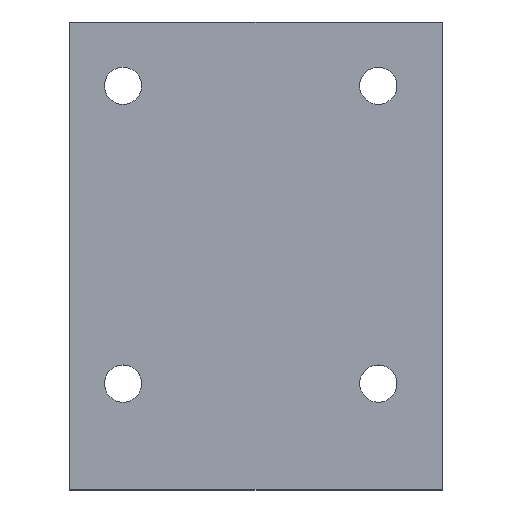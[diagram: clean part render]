
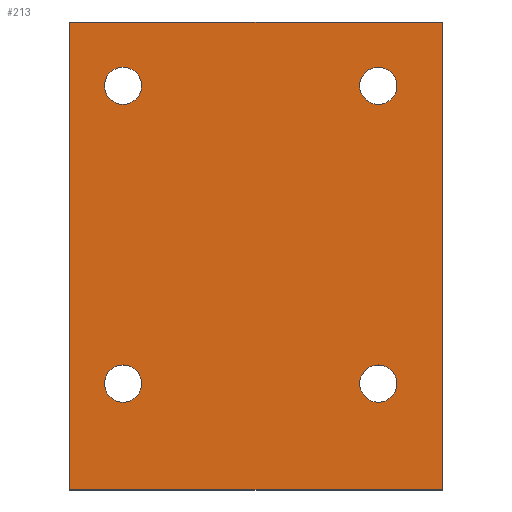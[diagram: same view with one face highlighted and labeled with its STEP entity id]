
A CAD part, top view. The second image highlights one B-rep face of the part: STEP entity #213.
In plain terms, the highlighted planar face has unit normal (0, 0, 1).
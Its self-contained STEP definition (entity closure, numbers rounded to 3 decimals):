
#24 = VERTEX_POINT('',#25);
#25 = CARTESIAN_POINT('',(0.,0.,3.));
#32 = PLANE('',#33);
#33 = AXIS2_PLACEMENT_3D('',#34,#35,#36);
#34 = CARTESIAN_POINT('',(0.,0.,0.));
#35 = DIRECTION('',(1.,0.,0.));
#36 = DIRECTION('',(0.,0.,1.));
#44 = PLANE('',#45);
#45 = AXIS2_PLACEMENT_3D('',#46,#47,#48);
#46 = CARTESIAN_POINT('',(0.,0.,0.));
#47 = DIRECTION('',(0.,1.,0.));
#48 = DIRECTION('',(0.,0.,1.));
#85 = VERTEX_POINT('',#86);
#86 = CARTESIAN_POINT('',(0.,44.,3.));
#100 = PLANE('',#101);
#101 = AXIS2_PLACEMENT_3D('',#102,#103,#104);
#102 = CARTESIAN_POINT('',(0.,44.,0.));
#103 = DIRECTION('',(0.,1.,0.));
#104 = DIRECTION('',(0.,0.,1.));
#112 = EDGE_CURVE('',#24,#85,#113,.T.);
#113 = SURFACE_CURVE('',#114,(#118,#125),.PCURVE_S1.);
#114 = LINE('',#115,#116);
#115 = CARTESIAN_POINT('',(0.,0.,3.));
#116 = VECTOR('',#117,1.);
#117 = DIRECTION('',(0.,1.,0.));
#118 = PCURVE('',#32,#119);
#119 = DEFINITIONAL_REPRESENTATION('',(#120),#124);
#120 = LINE('',#121,#122);
#121 = CARTESIAN_POINT('',(3.,0.));
#122 = VECTOR('',#123,1.);
#123 = DIRECTION('',(0.,-1.));
#124 = ( GEOMETRIC_REPRESENTATION_CONTEXT(2) 
PARAMETRIC_REPRESENTATION_CONTEXT() REPRESENTATION_CONTEXT('2D SPACE',''
  ) );
#125 = PCURVE('',#126,#131);
#126 = PLANE('',#127);
#127 = AXIS2_PLACEMENT_3D('',#128,#129,#130);
#128 = CARTESIAN_POINT('',(0.,0.,3.));
#129 = DIRECTION('',(0.,0.,1.));
#130 = DIRECTION('',(1.,0.,0.));
#131 = DEFINITIONAL_REPRESENTATION('',(#132),#136);
#132 = LINE('',#133,#134);
#133 = CARTESIAN_POINT('',(0.,0.));
#134 = VECTOR('',#135,1.);
#135 = DIRECTION('',(0.,1.));
#136 = ( GEOMETRIC_REPRESENTATION_CONTEXT(2) 
PARAMETRIC_REPRESENTATION_CONTEXT() REPRESENTATION_CONTEXT('2D SPACE',''
  ) );
#165 = EDGE_CURVE('',#24,#166,#168,.T.);
#166 = VERTEX_POINT('',#167);
#167 = CARTESIAN_POINT('',(35.,0.,3.));
#168 = SURFACE_CURVE('',#169,(#173,#180),.PCURVE_S1.);
#169 = LINE('',#170,#171);
#170 = CARTESIAN_POINT('',(0.,0.,3.));
#171 = VECTOR('',#172,1.);
#172 = DIRECTION('',(1.,0.,0.));
#173 = PCURVE('',#44,#174);
#174 = DEFINITIONAL_REPRESENTATION('',(#175),#179);
#175 = LINE('',#176,#177);
#176 = CARTESIAN_POINT('',(3.,0.));
#177 = VECTOR('',#178,1.);
#178 = DIRECTION('',(0.,1.));
#179 = ( GEOMETRIC_REPRESENTATION_CONTEXT(2) 
PARAMETRIC_REPRESENTATION_CONTEXT() REPRESENTATION_CONTEXT('2D SPACE',''
  ) );
#180 = PCURVE('',#126,#181);
#181 = DEFINITIONAL_REPRESENTATION('',(#182),#186);
#182 = LINE('',#183,#184);
#183 = CARTESIAN_POINT('',(0.,0.));
#184 = VECTOR('',#185,1.);
#185 = DIRECTION('',(1.,0.));
#186 = ( GEOMETRIC_REPRESENTATION_CONTEXT(2) 
PARAMETRIC_REPRESENTATION_CONTEXT() REPRESENTATION_CONTEXT('2D SPACE',''
  ) );
#202 = PLANE('',#203);
#203 = AXIS2_PLACEMENT_3D('',#204,#205,#206);
#204 = CARTESIAN_POINT('',(35.,0.,0.));
#205 = DIRECTION('',(1.,0.,0.));
#206 = DIRECTION('',(0.,0.,1.));
#213 = ADVANCED_FACE('',(#214,#262,#293,#324,#355),#126,.T.);
#214 = FACE_BOUND('',#215,.T.);
#215 = EDGE_LOOP('',(#216,#217,#218,#241));
#216 = ORIENTED_EDGE('',*,*,#112,.F.);
#217 = ORIENTED_EDGE('',*,*,#165,.T.);
#218 = ORIENTED_EDGE('',*,*,#219,.T.);
#219 = EDGE_CURVE('',#166,#220,#222,.T.);
#220 = VERTEX_POINT('',#221);
#221 = CARTESIAN_POINT('',(35.,44.,3.));
#222 = SURFACE_CURVE('',#223,(#227,#234),.PCURVE_S1.);
#223 = LINE('',#224,#225);
#224 = CARTESIAN_POINT('',(35.,0.,3.));
#225 = VECTOR('',#226,1.);
#226 = DIRECTION('',(0.,1.,0.));
#227 = PCURVE('',#126,#228);
#228 = DEFINITIONAL_REPRESENTATION('',(#229),#233);
#229 = LINE('',#230,#231);
#230 = CARTESIAN_POINT('',(35.,0.));
#231 = VECTOR('',#232,1.);
#232 = DIRECTION('',(0.,1.));
#233 = ( GEOMETRIC_REPRESENTATION_CONTEXT(2) 
PARAMETRIC_REPRESENTATION_CONTEXT() REPRESENTATION_CONTEXT('2D SPACE',''
  ) );
#234 = PCURVE('',#202,#235);
#235 = DEFINITIONAL_REPRESENTATION('',(#236),#240);
#236 = LINE('',#237,#238);
#237 = CARTESIAN_POINT('',(3.,0.));
#238 = VECTOR('',#239,1.);
#239 = DIRECTION('',(0.,-1.));
#240 = ( GEOMETRIC_REPRESENTATION_CONTEXT(2) 
PARAMETRIC_REPRESENTATION_CONTEXT() REPRESENTATION_CONTEXT('2D SPACE',''
  ) );
#241 = ORIENTED_EDGE('',*,*,#242,.F.);
#242 = EDGE_CURVE('',#85,#220,#243,.T.);
#243 = SURFACE_CURVE('',#244,(#248,#255),.PCURVE_S1.);
#244 = LINE('',#245,#246);
#245 = CARTESIAN_POINT('',(0.,44.,3.));
#246 = VECTOR('',#247,1.);
#247 = DIRECTION('',(1.,0.,0.));
#248 = PCURVE('',#126,#249);
#249 = DEFINITIONAL_REPRESENTATION('',(#250),#254);
#250 = LINE('',#251,#252);
#251 = CARTESIAN_POINT('',(0.,44.));
#252 = VECTOR('',#253,1.);
#253 = DIRECTION('',(1.,0.));
#254 = ( GEOMETRIC_REPRESENTATION_CONTEXT(2) 
PARAMETRIC_REPRESENTATION_CONTEXT() REPRESENTATION_CONTEXT('2D SPACE',''
  ) );
#255 = PCURVE('',#100,#256);
#256 = DEFINITIONAL_REPRESENTATION('',(#257),#261);
#257 = LINE('',#258,#259);
#258 = CARTESIAN_POINT('',(3.,0.));
#259 = VECTOR('',#260,1.);
#260 = DIRECTION('',(0.,1.));
#261 = ( GEOMETRIC_REPRESENTATION_CONTEXT(2) 
PARAMETRIC_REPRESENTATION_CONTEXT() REPRESENTATION_CONTEXT('2D SPACE',''
  ) );
#262 = FACE_BOUND('',#263,.T.);
#263 = EDGE_LOOP('',(#264));
#264 = ORIENTED_EDGE('',*,*,#265,.F.);
#265 = EDGE_CURVE('',#266,#266,#268,.T.);
#266 = VERTEX_POINT('',#267);
#267 = CARTESIAN_POINT('',(6.75,10.,3.));
#268 = SURFACE_CURVE('',#269,(#274,#281),.PCURVE_S1.);
#269 = CIRCLE('',#270,1.75);
#270 = AXIS2_PLACEMENT_3D('',#271,#272,#273);
#271 = CARTESIAN_POINT('',(5.,10.,3.));
#272 = DIRECTION('',(0.,0.,1.));
#273 = DIRECTION('',(1.,0.,-0.));
#274 = PCURVE('',#126,#275);
#275 = DEFINITIONAL_REPRESENTATION('',(#276),#280);
#276 = CIRCLE('',#277,1.75);
#277 = AXIS2_PLACEMENT_2D('',#278,#279);
#278 = CARTESIAN_POINT('',(5.,10.));
#279 = DIRECTION('',(1.,0.));
#280 = ( GEOMETRIC_REPRESENTATION_CONTEXT(2) 
PARAMETRIC_REPRESENTATION_CONTEXT() REPRESENTATION_CONTEXT('2D SPACE',''
  ) );
#281 = PCURVE('',#282,#287);
#282 = CYLINDRICAL_SURFACE('',#283,1.75);
#283 = AXIS2_PLACEMENT_3D('',#284,#285,#286);
#284 = CARTESIAN_POINT('',(5.,10.,-1.));
#285 = DIRECTION('',(0.,0.,1.));
#286 = DIRECTION('',(1.,0.,-0.));
#287 = DEFINITIONAL_REPRESENTATION('',(#288),#292);
#288 = LINE('',#289,#290);
#289 = CARTESIAN_POINT('',(0.,4.));
#290 = VECTOR('',#291,1.);
#291 = DIRECTION('',(1.,0.));
#292 = ( GEOMETRIC_REPRESENTATION_CONTEXT(2) 
PARAMETRIC_REPRESENTATION_CONTEXT() REPRESENTATION_CONTEXT('2D SPACE',''
  ) );
#293 = FACE_BOUND('',#294,.T.);
#294 = EDGE_LOOP('',(#295));
#295 = ORIENTED_EDGE('',*,*,#296,.F.);
#296 = EDGE_CURVE('',#297,#297,#299,.T.);
#297 = VERTEX_POINT('',#298);
#298 = CARTESIAN_POINT('',(30.75,10.,3.));
#299 = SURFACE_CURVE('',#300,(#305,#312),.PCURVE_S1.);
#300 = CIRCLE('',#301,1.75);
#301 = AXIS2_PLACEMENT_3D('',#302,#303,#304);
#302 = CARTESIAN_POINT('',(29.,10.,3.));
#303 = DIRECTION('',(0.,0.,1.));
#304 = DIRECTION('',(1.,0.,-0.));
#305 = PCURVE('',#126,#306);
#306 = DEFINITIONAL_REPRESENTATION('',(#307),#311);
#307 = CIRCLE('',#308,1.75);
#308 = AXIS2_PLACEMENT_2D('',#309,#310);
#309 = CARTESIAN_POINT('',(29.,10.));
#310 = DIRECTION('',(1.,0.));
#311 = ( GEOMETRIC_REPRESENTATION_CONTEXT(2) 
PARAMETRIC_REPRESENTATION_CONTEXT() REPRESENTATION_CONTEXT('2D SPACE',''
  ) );
#312 = PCURVE('',#313,#318);
#313 = CYLINDRICAL_SURFACE('',#314,1.75);
#314 = AXIS2_PLACEMENT_3D('',#315,#316,#317);
#315 = CARTESIAN_POINT('',(29.,10.,-1.));
#316 = DIRECTION('',(0.,0.,1.));
#317 = DIRECTION('',(1.,0.,-0.));
#318 = DEFINITIONAL_REPRESENTATION('',(#319),#323);
#319 = LINE('',#320,#321);
#320 = CARTESIAN_POINT('',(0.,4.));
#321 = VECTOR('',#322,1.);
#322 = DIRECTION('',(1.,0.));
#323 = ( GEOMETRIC_REPRESENTATION_CONTEXT(2) 
PARAMETRIC_REPRESENTATION_CONTEXT() REPRESENTATION_CONTEXT('2D SPACE',''
  ) );
#324 = FACE_BOUND('',#325,.T.);
#325 = EDGE_LOOP('',(#326));
#326 = ORIENTED_EDGE('',*,*,#327,.F.);
#327 = EDGE_CURVE('',#328,#328,#330,.T.);
#328 = VERTEX_POINT('',#329);
#329 = CARTESIAN_POINT('',(6.75,38.,3.));
#330 = SURFACE_CURVE('',#331,(#336,#343),.PCURVE_S1.);
#331 = CIRCLE('',#332,1.75);
#332 = AXIS2_PLACEMENT_3D('',#333,#334,#335);
#333 = CARTESIAN_POINT('',(5.,38.,3.));
#334 = DIRECTION('',(0.,0.,1.));
#335 = DIRECTION('',(1.,0.,-0.));
#336 = PCURVE('',#126,#337);
#337 = DEFINITIONAL_REPRESENTATION('',(#338),#342);
#338 = CIRCLE('',#339,1.75);
#339 = AXIS2_PLACEMENT_2D('',#340,#341);
#340 = CARTESIAN_POINT('',(5.,38.));
#341 = DIRECTION('',(1.,0.));
#342 = ( GEOMETRIC_REPRESENTATION_CONTEXT(2) 
PARAMETRIC_REPRESENTATION_CONTEXT() REPRESENTATION_CONTEXT('2D SPACE',''
  ) );
#343 = PCURVE('',#344,#349);
#344 = CYLINDRICAL_SURFACE('',#345,1.75);
#345 = AXIS2_PLACEMENT_3D('',#346,#347,#348);
#346 = CARTESIAN_POINT('',(5.,38.,-1.));
#347 = DIRECTION('',(0.,0.,1.));
#348 = DIRECTION('',(1.,0.,-0.));
#349 = DEFINITIONAL_REPRESENTATION('',(#350),#354);
#350 = LINE('',#351,#352);
#351 = CARTESIAN_POINT('',(0.,4.));
#352 = VECTOR('',#353,1.);
#353 = DIRECTION('',(1.,0.));
#354 = ( GEOMETRIC_REPRESENTATION_CONTEXT(2) 
PARAMETRIC_REPRESENTATION_CONTEXT() REPRESENTATION_CONTEXT('2D SPACE',''
  ) );
#355 = FACE_BOUND('',#356,.T.);
#356 = EDGE_LOOP('',(#357));
#357 = ORIENTED_EDGE('',*,*,#358,.F.);
#358 = EDGE_CURVE('',#359,#359,#361,.T.);
#359 = VERTEX_POINT('',#360);
#360 = CARTESIAN_POINT('',(30.75,38.,3.));
#361 = SURFACE_CURVE('',#362,(#367,#374),.PCURVE_S1.);
#362 = CIRCLE('',#363,1.75);
#363 = AXIS2_PLACEMENT_3D('',#364,#365,#366);
#364 = CARTESIAN_POINT('',(29.,38.,3.));
#365 = DIRECTION('',(0.,0.,1.));
#366 = DIRECTION('',(1.,0.,-0.));
#367 = PCURVE('',#126,#368);
#368 = DEFINITIONAL_REPRESENTATION('',(#369),#373);
#369 = CIRCLE('',#370,1.75);
#370 = AXIS2_PLACEMENT_2D('',#371,#372);
#371 = CARTESIAN_POINT('',(29.,38.));
#372 = DIRECTION('',(1.,0.));
#373 = ( GEOMETRIC_REPRESENTATION_CONTEXT(2) 
PARAMETRIC_REPRESENTATION_CONTEXT() REPRESENTATION_CONTEXT('2D SPACE',''
  ) );
#374 = PCURVE('',#375,#380);
#375 = CYLINDRICAL_SURFACE('',#376,1.75);
#376 = AXIS2_PLACEMENT_3D('',#377,#378,#379);
#377 = CARTESIAN_POINT('',(29.,38.,-1.));
#378 = DIRECTION('',(0.,0.,1.));
#379 = DIRECTION('',(1.,0.,-0.));
#380 = DEFINITIONAL_REPRESENTATION('',(#381),#385);
#381 = LINE('',#382,#383);
#382 = CARTESIAN_POINT('',(0.,4.));
#383 = VECTOR('',#384,1.);
#384 = DIRECTION('',(1.,0.));
#385 = ( GEOMETRIC_REPRESENTATION_CONTEXT(2) 
PARAMETRIC_REPRESENTATION_CONTEXT() REPRESENTATION_CONTEXT('2D SPACE',''
  ) );
